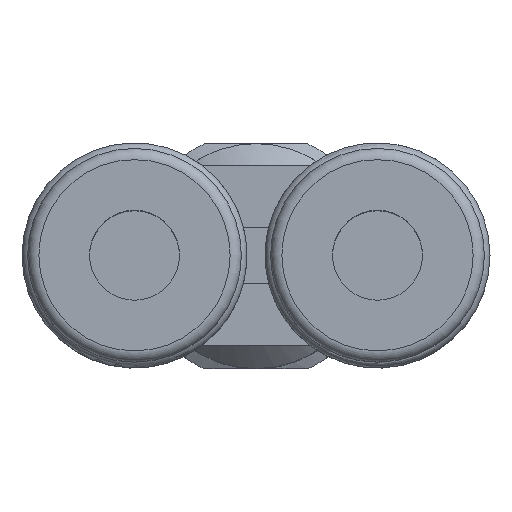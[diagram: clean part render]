
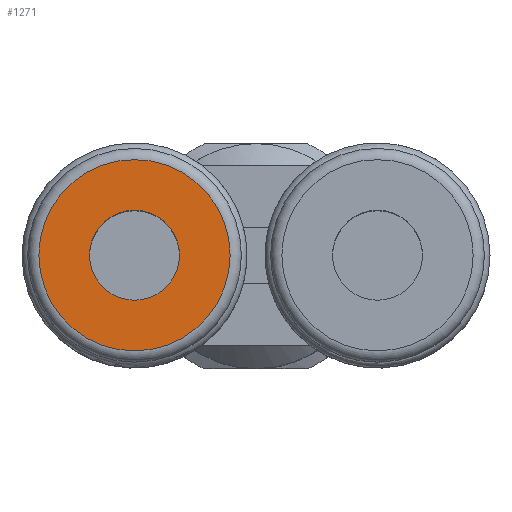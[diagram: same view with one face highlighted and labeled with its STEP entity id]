
A CAD part, top view. The second image highlights one B-rep face of the part: STEP entity #1271.
In plain terms, the highlighted planar face has unit normal (0, 0, 1).
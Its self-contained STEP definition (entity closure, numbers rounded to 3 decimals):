
#213=PLANE($,#1399);
#243=FACE_BOUND($,#397,.T.);
#244=FACE_BOUND($,#398,.T.);
#397=EDGE_LOOP($,(#994));
#398=EDGE_LOOP($,(#995));
#507=CIRCLE($,#1391,2.);
#509=CIRCLE($,#1395,4.25);
#602=VERTEX_POINT($,#2109);
#604=VERTEX_POINT($,#2115);
#745=EDGE_CURVE($,#602,#602,#507,.T.);
#747=EDGE_CURVE($,#604,#604,#509,.T.);
#994=ORIENTED_EDGE($,*,*,#745,.F.);
#995=ORIENTED_EDGE($,*,*,#747,.T.);
#1271=ADVANCED_FACE($,(#243,#244),#213,.T.);
#1391=AXIS2_PLACEMENT_3D($,#2110,#1642,#1643);
#1395=AXIS2_PLACEMENT_3D($,#2116,#1650,#1651);
#1399=AXIS2_PLACEMENT_3D($,#2122,#1658,#1659);
#1642=DIRECTION('center_axis',(0.,0.,1.));
#1643=DIRECTION('ref_axis',(-1.,0.,0.));
#1650=DIRECTION('center_axis',(0.,0.,1.));
#1651=DIRECTION('ref_axis',(1.,0.,0.));
#1658=DIRECTION('center_axis',(0.,0.,1.));
#1659=DIRECTION('ref_axis',(1.,0.,0.));
#2109=CARTESIAN_POINT('',(-7.4,0.,28.3));
#2110=CARTESIAN_POINT('Origin',(-5.4,0.,28.3));
#2115=CARTESIAN_POINT('',(-9.65,0.,28.3));
#2116=CARTESIAN_POINT('Origin',(-5.4,0.,28.3));
#2122=CARTESIAN_POINT('Origin',(-5.4,0.,28.3));
